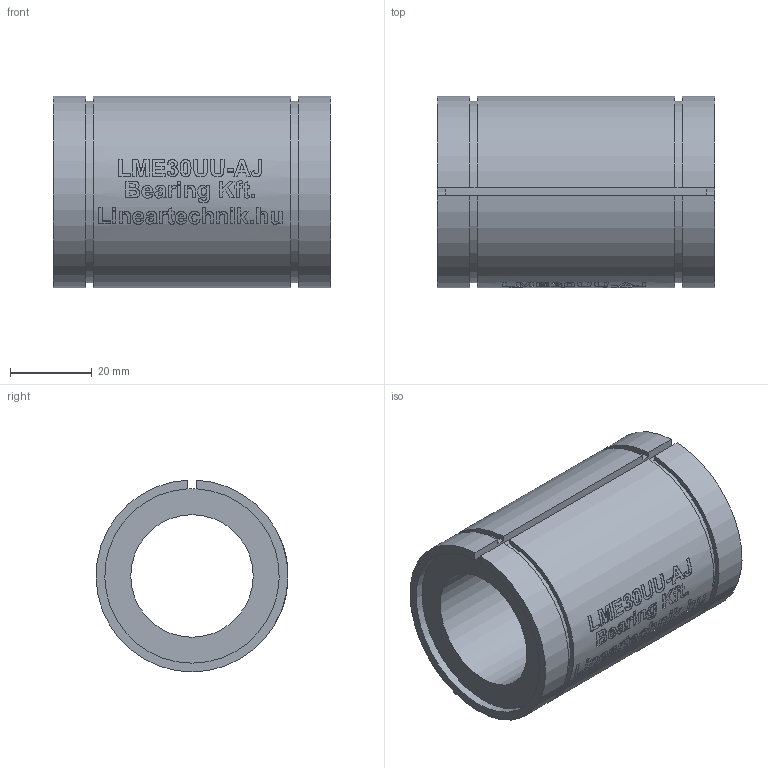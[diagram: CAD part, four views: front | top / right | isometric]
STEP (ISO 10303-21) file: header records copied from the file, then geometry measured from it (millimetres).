
FILE_DESCRIPTION(/* description */ (''),/* implementation_level */ '2;1');
FILE_NAME(/* name */ 'LME30UU-AJ',/* time_stamp */ '2019-07-02T12:06:03+02:00',/* author */ ('VĂ©gh MĂˇtĂ©'),/* organization */ ('Bearing Kft'),/* preprocessor_version */ 'ST-DEVELOPER v16.7',/* originating_system */ 'DEX',/* authorisation */ $);
FILE_SCHEMA (('AUTOMOTIVE_DESIGN {1 0 10303 214 3 1 1}'));
Length unit declared in the file: millimetre
Products named in the file (1): LME30UU-AJ
Bounding box: 68 x 46.99 x 46.98 mm (x, y, z)
Volume: 66038.6 mm3; surface area: 19660.6 mm2
Topology: 1 solids, 1 shells, 342 faces, 868 edges, 578 vertices
Faces by surface type: plane 179, bspline 104, cylinder 59
Full cylindrical faces by diameter (mm): 30 x1
Entity records: 19600 total; most frequent: CARTESIAN_POINT 11875, ORIENTED_EDGE 1726, DIRECTION 1292, EDGE_CURVE 863, VERTEX_POINT 577, LINE 488, VECTOR 488, AXIS2_PLACEMENT_3D 402
